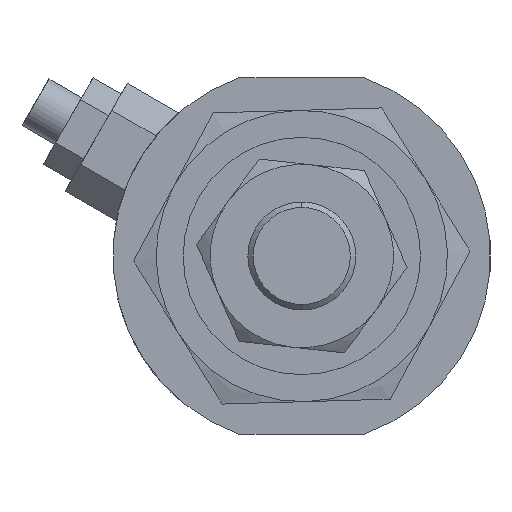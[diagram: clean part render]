
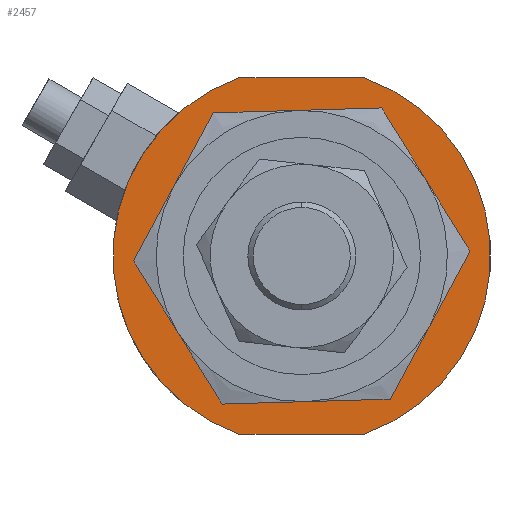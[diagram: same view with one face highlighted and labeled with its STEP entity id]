
A CAD part, left-side view. The second image highlights one B-rep face of the part: STEP entity #2457.
In plain terms, the highlighted planar face has unit normal (-1, 0, 0).
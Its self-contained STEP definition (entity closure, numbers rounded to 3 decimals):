
#103 = VERTEX_POINT ( 'NONE', #499 ) ;
#236 = EDGE_CURVE ( 'NONE', #4569, #1163, #592, .T. ) ;
#238 = ORIENTED_EDGE ( 'NONE', *, *, #2792, .F. ) ;
#252 = EDGE_CURVE ( 'NONE', #4818, #4165, #2348, .T. ) ;
#320 = CARTESIAN_POINT ( 'NONE',  ( 42., 0., 0. ) ) ;
#397 = CARTESIAN_POINT ( 'NONE',  ( 42., 0., 0. ) ) ;
#465 = EDGE_CURVE ( 'NONE', #103, #1816, #1032, .T. ) ;
#499 = CARTESIAN_POINT ( 'NONE',  ( 42., -5.831, -16.5 ) ) ;
#592 = LINE ( 'NONE', #3017, #3008 ) ;
#740 = AXIS2_PLACEMENT_3D ( 'NONE', #2284, #4276, #2125 ) ;
#776 = FACE_BOUND ( 'NONE', #1827, .T. ) ;
#1028 = ORIENTED_EDGE ( 'NONE', *, *, #4358, .T. ) ;
#1032 = LINE ( 'NONE', #3788, #3965 ) ;
#1054 = AXIS2_PLACEMENT_3D ( 'NONE', #320, #2432, #1943 ) ;
#1087 = ORIENTED_EDGE ( 'NONE', *, *, #2387, .T. ) ;
#1163 = VERTEX_POINT ( 'NONE', #3814 ) ;
#1373 = CARTESIAN_POINT ( 'NONE',  ( 42., 0., -11.5 ) ) ;
#1434 = ORIENTED_EDGE ( 'NONE', *, *, #465, .F. ) ;
#1444 = DIRECTION ( 'NONE',  ( 0., 0., -1. ) ) ;
#1505 = ORIENTED_EDGE ( 'NONE', *, *, #236, .F. ) ;
#1600 = AXIS2_PLACEMENT_3D ( 'NONE', #4826, #2252, #1444 ) ;
#1650 = CIRCLE ( 'NONE', #740, 17.5 ) ;
#1676 = CARTESIAN_POINT ( 'NONE',  ( 42., 5.831, -16.5 ) ) ;
#1816 = VERTEX_POINT ( 'NONE', #1676 ) ;
#1827 = EDGE_LOOP ( 'NONE', ( #238, #3678 ) ) ;
#1846 = PLANE ( 'NONE',  #1600 ) ;
#1943 = DIRECTION ( 'NONE',  ( 0., 0., 1. ) ) ;
#2125 = DIRECTION ( 'NONE',  ( 0., 0., 1. ) ) ;
#2231 = EDGE_LOOP ( 'NONE', ( #1028, #1434, #1087, #1505 ) ) ;
#2252 = DIRECTION ( 'NONE',  ( 1., 0., 0. ) ) ;
#2284 = CARTESIAN_POINT ( 'NONE',  ( 42., 0., 0. ) ) ;
#2348 = CIRCLE ( 'NONE', #4214, 11.5 ) ;
#2370 = DIRECTION ( 'NONE',  ( 0., -1., 0. ) ) ;
#2387 = EDGE_CURVE ( 'NONE', #103, #1163, #1650, .T. ) ;
#2432 = DIRECTION ( 'NONE',  ( -1., 0., 0. ) ) ;
#2457 = ADVANCED_FACE ( 'NONE', ( #776, #4167 ), #1846, .F. ) ;
#2792 = EDGE_CURVE ( 'NONE', #4165, #4818, #3789, .T. ) ;
#3008 = VECTOR ( 'NONE', #2370, 1000. ) ;
#3017 = CARTESIAN_POINT ( 'NONE',  ( 42., 15., 16.5 ) ) ;
#3224 = DIRECTION ( 'NONE',  ( -1., 0., 0. ) ) ;
#3643 = DIRECTION ( 'NONE',  ( 0., 0., 1. ) ) ;
#3678 = ORIENTED_EDGE ( 'NONE', *, *, #252, .F. ) ;
#3716 = DIRECTION ( 'NONE',  ( 0., 0., 1. ) ) ;
#3788 = CARTESIAN_POINT ( 'NONE',  ( 42., 15., -16.5 ) ) ;
#3789 = CIRCLE ( 'NONE', #4806, 11.5 ) ;
#3806 = CARTESIAN_POINT ( 'NONE',  ( 42., 0., 0. ) ) ;
#3814 = CARTESIAN_POINT ( 'NONE',  ( 42., -5.831, 16.5 ) ) ;
#3965 = VECTOR ( 'NONE', #4260, 1000. ) ;
#4165 = VERTEX_POINT ( 'NONE', #4837 ) ;
#4167 = FACE_OUTER_BOUND ( 'NONE', #2231, .T. ) ;
#4214 = AXIS2_PLACEMENT_3D ( 'NONE', #3806, #4278, #3643 ) ;
#4260 = DIRECTION ( 'NONE',  ( 0., 1., 0. ) ) ;
#4276 = DIRECTION ( 'NONE',  ( -1., 0., 0. ) ) ;
#4278 = DIRECTION ( 'NONE',  ( -1., 0., 0. ) ) ;
#4358 = EDGE_CURVE ( 'NONE', #4569, #1816, #4482, .T. ) ;
#4482 = CIRCLE ( 'NONE', #1054, 17.5 ) ;
#4569 = VERTEX_POINT ( 'NONE', #4776 ) ;
#4776 = CARTESIAN_POINT ( 'NONE',  ( 42., 5.831, 16.5 ) ) ;
#4806 = AXIS2_PLACEMENT_3D ( 'NONE', #397, #3224, #3716 ) ;
#4818 = VERTEX_POINT ( 'NONE', #1373 ) ;
#4826 = CARTESIAN_POINT ( 'NONE',  ( 42., 0., -17.5 ) ) ;
#4837 = CARTESIAN_POINT ( 'NONE',  ( 42., 0., 11.5 ) ) ;
